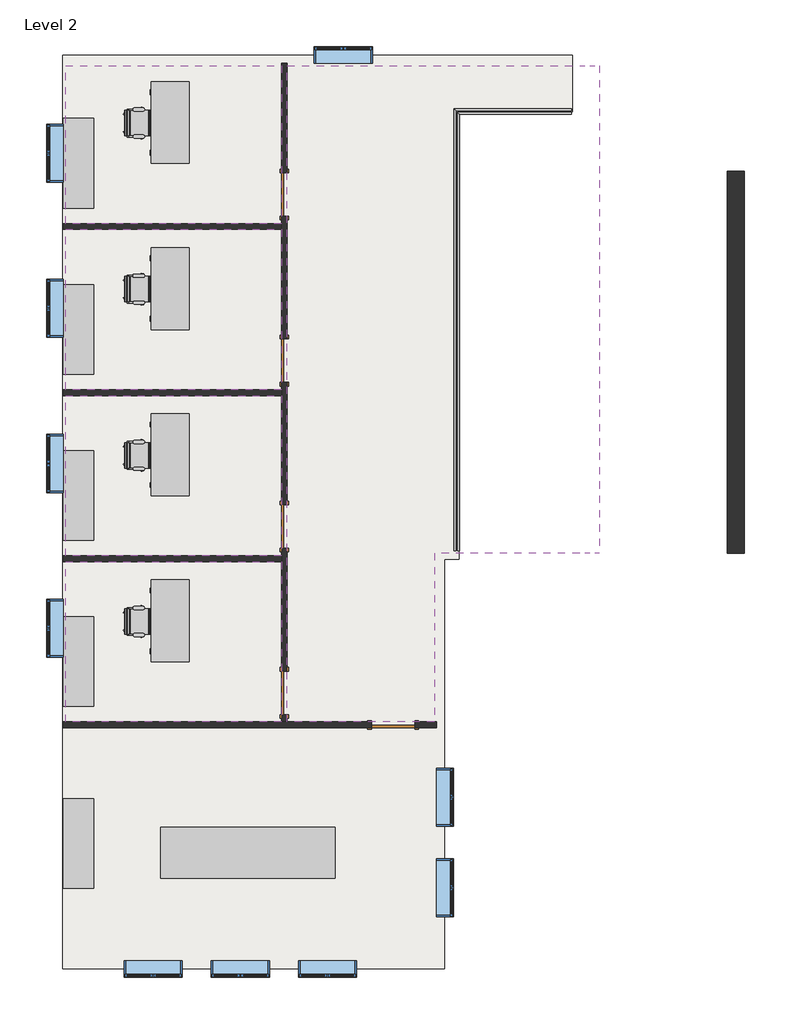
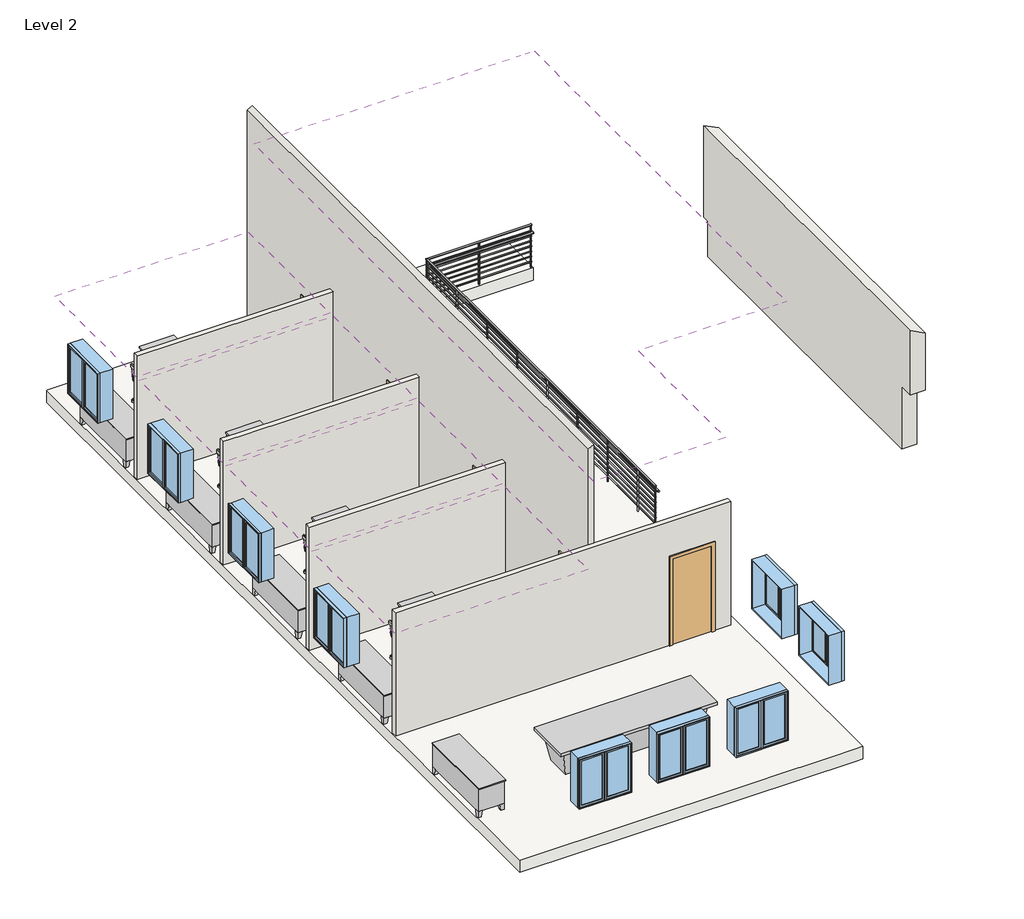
# One storey, incomplete: 14 furniture elements, 10 windows, 6 walls, 5 coverings, 5 doors, 1 railing, 1 slab.
"""IFC4 building model written with IfcOpenShell, lengths in millimetres."""

from ifc_helpers import new_model, si_unit, frame, origin, place, context, project, spatial, polyline, outline, extrude, faceted_brep, transform, mapped, element, save
from components import door_eb9f8b14, chair_task_arms_chair_task_arms_8395c10b, conference_table_complete_42_x_144_00e9c4b6, furniture_5a5a5c8e, furniture_9d33da18, guardrail_pipe_a9856383, window_75435c65

model = new_model("IFC4")

# Units and contexts
model_context = context("Model", 3, world=origin())
ifc_project = project(units=[si_unit("LENGTHUNIT", "METRE", prefix="MILLI")], contexts=[model_context])

# Site, building, storey
site = spatial("IfcSite", under=ifc_project)
building = spatial("IfcBuilding", under=site)
storey = spatial("IfcBuildingStorey", under=building, Name="Level 2", Elevation=3048.0)

# Coverings
placement = place(None, origin())
element("IfcCovering", 1, ObjectType="2' x 4' ACT System", at=placement, inside=storey, context=model_context, shape_type="SweptSolid", body=[
    extrude(outline(polyline([(-9011.7016552, 7211.1980424), (-13532.9016552, 7211.1980424), (-13532.9016552, 10517.9605424), (-9011.7016552, 10517.9605424), (-9011.7016552, 7211.1980424)])), frame((0.0, 0.0, 5486.4), z_axis=(0.0, 0.0, 1.0), x_axis=(1.0, 0.0, 0.0)), (0.0, 0.0, 1.0), 57.15),
])
element("IfcCovering", 2, ObjectType="2' x 4' ACT System", at=placement, inside=storey, context=model_context, shape_type="SweptSolid", body=[
    extrude(outline(polyline([(-9011.7016552, 3729.8105424), (-13532.9016552, 3729.8105424), (-13532.9016552, 7087.3730424), (-9011.7016552, 7087.3730424), (-9011.7016552, 3729.8105424)])), frame((0.0, 0.0, 5486.4), z_axis=(0.0, 0.0, 1.0), x_axis=(1.0, 0.0, 0.0)), (0.0, 0.0, 1.0), 57.15),
])
element("IfcCovering", 3, ObjectType="2' x 4' ACT System", at=placement, inside=storey, context=model_context, shape_type="SweptSolid", body=[
    extrude(outline(polyline([(-9011.7016552, 248.4230424), (-13532.9016552, 248.4230424), (-13532.9016552, 3605.9855424), (-9011.7016552, 3605.9855424), (-9011.7016552, 248.4230424)])), frame((0.0, 0.0, 5486.4), z_axis=(0.0, 0.0, 1.0), x_axis=(1.0, 0.0, 0.0)), (0.0, 0.0, 1.0), 57.15),
])
element("IfcCovering", 4, ObjectType="2' x 4' ACT System", at=placement, inside=storey, context=model_context, shape_type="SweptSolid", body=[
    extrude(outline(polyline([(-9011.7016552, -3232.9644576), (-13532.9016552, -3232.9644576), (-13532.9016552, 124.5980424), (-9011.7016552, 124.5980424), (-9011.7016552, -3232.9644576)])), frame((0.0, 0.0, 5486.4), z_axis=(0.0, 0.0, 1.0), x_axis=(1.0, 0.0, 0.0)), (0.0, 0.0, 1.0), 57.15),
])
element("IfcCovering", 5, ObjectType="5/8\" GWB on Mtl. Stud", at=placement, inside=storey, context=model_context, shape_type="Brep", body=[
    faceted_brep([(-2339.5447142, 10517.9605424, 7727.95), (-2756.9516552, 10517.9605424, 7727.95), (-8887.8766552, 10517.9605424, 7727.95), (-8887.8766552, -3232.9644576, 7727.95), (-5804.9516552, -3232.9644576, 7727.95), (-5804.9516552, 307.1605424, 7727.95), (-2756.9516552, 307.1605424, 7727.95), (-2339.5447142, 307.1605424, 7727.95), (-2339.5447142, 10517.9605424, 7620.0), (-2339.5447142, 307.1605424, 7620.0), (-2541.0516552, 307.1605424, 7620.0), (-5804.9516552, 307.1605424, 7620.0), (-5804.9516552, -3232.9644576, 7620.0), (-8887.8766552, -3232.9644576, 7620.0), (-8887.8766552, 10517.9605424, 7620.0), (-2541.0516552, 10517.9605424, 7620.0)], [[[0, 1, 2, 3, 4, 5, 6, 7]], [[8, 9, 10, 11, 12, 13, 14, 15]], [[2, 1, 0, 8, 15, 14]], [[3, 2, 14, 13]], [[4, 3, 13, 12]], [[5, 4, 12, 11]], [[7, 6, 5, 11, 10, 9]], [[0, 7, 9, 8]]]),
])

# Doors
door_shape = door_eb9f8b14(model_context)
element("IfcDoor", 6, ObjectType="Single-Flush : 36\" x 84\"", at=placement, inside=storey, context=model_context, shape_type="MappedRepresentation", body=[
    mapped(door_shape, transform((-6668.5516552, -3294.8769576, 3048.0), x_axis=(1.0, 0.0, 0.0), y_axis=(0.0, 1.0, 0.0), z_axis=(0.0, 0.0, 1.0))),
])
element("IfcDoor", 7, ObjectType="Single-Flush : 36\" x 84\"", at=placement, inside=storey, context=model_context, shape_type="MappedRepresentation", body=[
    mapped(door_shape, transform((-8949.7891552, -2623.3644576, 3048.0), x_axis=(0.0, -1.0, 0.0), y_axis=(1.0, 0.0, 0.0), z_axis=(0.0, 0.0, 1.0))),
])
element("IfcDoor", 8, ObjectType="Single-Flush : 36\" x 84\"", at=placement, inside=storey, context=model_context, shape_type="MappedRepresentation", body=[
    mapped(door_shape, transform((-8949.7891552, 862.7855424, 3048.0), x_axis=(0.0, -1.0, 0.0), y_axis=(1.0, 0.0, 0.0), z_axis=(0.0, 0.0, 1.0))),
])
element("IfcDoor", 9, ObjectType="Single-Flush : 36\" x 84\"", at=placement, inside=storey, context=model_context, shape_type="MappedRepresentation", body=[
    mapped(door_shape, transform((-8949.7891552, 4339.4105424, 3048.0), x_axis=(0.0, -1.0, 0.0), y_axis=(1.0, 0.0, 0.0), z_axis=(0.0, 0.0, 1.0))),
])
element("IfcDoor", 10, ObjectType="Single-Flush : 36\" x 84\"", at=placement, inside=storey, context=model_context, shape_type="MappedRepresentation", body=[
    mapped(door_shape, transform((-8949.7891552, 7820.7980424, 3048.0), x_axis=(0.0, -1.0, 0.0), y_axis=(1.0, 0.0, 0.0), z_axis=(0.0, 0.0, 1.0))),
])

# Furniture
chair_task_arms_chair_task_arms_shape = chair_task_arms_chair_task_arms_8395c10b(model_context)
element("IfcFurniture", 11, ObjectType="Chair-Task Arms : Chair-Task Arms", at=placement, inside=storey, context=model_context, shape_type="MappedRepresentation", body=[
    mapped(chair_task_arms_chair_task_arms_shape, transform((-12048.1356286, -1267.3427772, 3048.0), x_axis=(0.0, 1.0, 0.0), y_axis=(-1.0, 0.0, 0.0), z_axis=(0.0, 0.0, 1.0))),
])
element("IfcFurniture", 12, ObjectType="Chair-Task Arms : Chair-Task Arms", at=placement, inside=storey, context=model_context, shape_type="MappedRepresentation", body=[
    mapped(chair_task_arms_chair_task_arms_shape, transform((-12048.1356286, 2214.0447228, 3048.0), x_axis=(0.0, 1.0, 0.0), y_axis=(-1.0, 0.0, 0.0), z_axis=(0.0, 0.0, 1.0))),
])
element("IfcFurniture", 13, ObjectType="Chair-Task Arms : Chair-Task Arms", at=placement, inside=storey, context=model_context, shape_type="MappedRepresentation", body=[
    mapped(chair_task_arms_chair_task_arms_shape, transform((-12048.1356286, 5695.4322228, 3048.0), x_axis=(0.0, 1.0, 0.0), y_axis=(-1.0, 0.0, 0.0), z_axis=(0.0, 0.0, 1.0))),
])
element("IfcFurniture", 14, ObjectType="Chair-Task Arms : Chair-Task Arms", at=placement, inside=storey, context=model_context, shape_type="MappedRepresentation", body=[
    mapped(chair_task_arms_chair_task_arms_shape, transform((-12048.1356286, 9176.8197228, 3048.0), x_axis=(0.0, 1.0, 0.0), y_axis=(-1.0, 0.0, 0.0), z_axis=(0.0, 0.0, 1.0))),
])
conference_table_complete_42_x_144_shape = conference_table_complete_42_x_144_00e9c4b6(model_context)
element("IfcFurniture", 15, ObjectType="Conference Table-Complete : 42 x 144", at=placement, inside=storey, context=model_context, shape_type="MappedRepresentation", body=[
    mapped(conference_table_complete_42_x_144_shape, transform((-9715.5836955, -5969.8356111, 3048.0), x_axis=(1.0, 0.0, 0.0), y_axis=(0.0, 1.0, 0.0), z_axis=(0.0, 0.0, 1.0))),
])
furniture_shape = furniture_5a5a5c8e(model_context)
element("IfcFurniture", 16, ObjectType="Credenza : 72\" x 24\"", at=placement, inside=storey, context=model_context, shape_type="MappedRepresentation", body=[
    mapped(furniture_shape, transform((-13274.3213273, -1908.6485326, 3048.0), x_axis=(0.0, -1.0, 0.0), y_axis=(1.0, 0.0, 0.0), z_axis=(0.0, 0.0, 1.0))),
])
element("IfcFurniture", 17, ObjectType="Credenza : 72\" x 24\"", at=placement, inside=storey, context=model_context, shape_type="MappedRepresentation", body=[
    mapped(furniture_shape, transform((-13274.3213273, -5718.6485326, 3048.0), x_axis=(0.0, -1.0000000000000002, 0.0), y_axis=(1.0000000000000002, 0.0, 0.0), z_axis=(0.0, 0.0, 1.0))),
])
element("IfcFurniture", 18, ObjectType="Credenza : 72\" x 24\"", at=placement, inside=storey, context=model_context, shape_type="MappedRepresentation", body=[
    mapped(furniture_shape, transform((-13274.3213273, 1572.7389674, 3048.0), x_axis=(0.0, -1.0, 0.0), y_axis=(1.0, 0.0, 0.0), z_axis=(0.0, 0.0, 1.0))),
])
element("IfcFurniture", 19, ObjectType="Credenza : 72\" x 24\"", at=placement, inside=storey, context=model_context, shape_type="MappedRepresentation", body=[
    mapped(furniture_shape, transform((-13274.3213273, 5054.1264674, 3048.0), x_axis=(0.0, -1.0, 0.0), y_axis=(1.0, 0.0, 0.0), z_axis=(0.0, 0.0, 1.0))),
])
element("IfcFurniture", 20, ObjectType="Credenza : 72\" x 24\"", at=placement, inside=storey, context=model_context, shape_type="MappedRepresentation", body=[
    mapped(furniture_shape, transform((-13274.3213273, 8535.5139674, 3048.0), x_axis=(0.0, -1.0, 0.0), y_axis=(1.0, 0.0, 0.0), z_axis=(0.0, 0.0, 1.0))),
])
furniture_2_shape = furniture_9d33da18(model_context)
element("IfcFurniture", 21, ObjectType="Desk1 : 66\" x 30\"", at=placement, inside=storey, context=model_context, shape_type="MappedRepresentation", body=[
    mapped(furniture_2_shape, transform((-10962.389727, -275.4519576, 3048.0), x_axis=(0.0, -1.0, 0.0), y_axis=(1.0, 0.0, 0.0), z_axis=(0.0, 0.0, 1.0))),
])
element("IfcFurniture", 22, ObjectType="Desk1 : 66\" x 30\"", at=placement, inside=storey, context=model_context, shape_type="MappedRepresentation", body=[
    mapped(furniture_2_shape, transform((-10962.389727, 3205.9355424, 3048.0), x_axis=(0.0, -1.0, 0.0), y_axis=(1.0, 0.0, 0.0), z_axis=(0.0, 0.0, 1.0))),
])
element("IfcFurniture", 23, ObjectType="Desk1 : 66\" x 30\"", at=placement, inside=storey, context=model_context, shape_type="MappedRepresentation", body=[
    mapped(furniture_2_shape, transform((-10962.389727, 6687.3230424, 3048.0), x_axis=(0.0, -1.0, 0.0), y_axis=(1.0, 0.0, 0.0), z_axis=(0.0, 0.0, 1.0))),
])
element("IfcFurniture", 24, ObjectType="Desk1 : 66\" x 30\"", at=placement, inside=storey, context=model_context, shape_type="MappedRepresentation", body=[
    mapped(furniture_2_shape, transform((-10962.389727, 10168.7105424, 3048.0), x_axis=(0.0, -1.0, 0.0), y_axis=(1.0, 0.0, 0.0), z_axis=(0.0, 0.0, 1.0))),
])

# Railing
guardrail_pipe_shape = guardrail_pipe_a9856383(model_context)
element("IfcRailing", 25, ObjectType="Guardrail - Pipe", at=placement, inside=storey, context=model_context, shape_type="MappedRepresentation", body=[
    mapped(guardrail_pipe_shape, transform((0.0, 0.0, 0.0), x_axis=(1.0, 0.0, 0.0), y_axis=(0.0, 1.0, 0.0), z_axis=(0.0, 0.0, 1.0))),
])

# Slab
element("IfcSlab", 26, ObjectType="Generic - 12\"", at=placement, inside=storey, context=model_context, shape_type="Brep", body=[
    faceted_brep([(-13596.4016552, 10733.8605424, 2743.2), (-13583.7016552, 10733.8605424, 2743.2), (-5093.7516552, 10733.8605424, 2743.2), (-2909.3516552, 10733.8605424, 2743.2), (-2909.3516552, 9554.527236, 2743.2), (-5284.2516552, 9554.527236, 2743.2), (-5284.2516552, 175.3980424, 2743.2), (-5401.7266552, 175.3980424, 2743.2), (-5589.0516552, 175.3980424, 2743.2), (-5589.0516552, -8398.6894576, 2743.2), (-5754.1516552, -8398.6894576, 2743.2), (-13596.4016552, -8398.6894576, 2743.2), (-13596.4016552, -8233.5894576, 2743.2), (-13596.4016552, 10733.8605424, 3048.0), (-13596.4016552, -8233.5894576, 3048.0), (-13596.4016552, -8398.6894576, 3048.0), (-5754.1516552, -8398.6894576, 3048.0), (-5589.0516552, -8398.6894576, 3048.0), (-5589.0516552, 175.3980424, 3048.0), (-5401.7266552, 175.3980424, 3048.0), (-5284.2516552, 175.3980424, 3048.0), (-5284.2516552, 9554.527236, 3048.0), (-2909.3516552, 9554.527236, 3048.0), (-2909.3516552, 10733.8605424, 3048.0), (-5093.7516552, 10733.8605424, 3048.0), (-13583.7016552, 10733.8605424, 3048.0)], [[[0, 1, 2, 3, 4, 5, 6, 7, 8, 9, 10, 11, 12]], [[13, 14, 15, 16, 17, 18, 19, 20, 21, 22, 23, 24, 25]], [[3, 2, 1, 0, 13, 25, 24, 23]], [[4, 3, 23, 22]], [[5, 4, 22, 21]], [[6, 5, 21, 20]], [[8, 7, 6, 20, 19, 18]], [[9, 8, 18, 17]], [[11, 10, 9, 17, 16, 15]], [[0, 12, 11, 15, 14, 13]]]),
])

# Walls
element("IfcWall", 27, ObjectType="Exterior - Brick on Mtl. Stud", at=placement, inside=storey, context=model_context, shape_type="Brep", body=[
    faceted_brep([(341.8483448, 8130.3605424, 3048.0), (341.8483448, 2791.5980424, 3048.0), (341.8483448, 300.8105424, 3048.0), (341.8483448, 300.8105424, 3860.8), (341.8483448, 300.8105424, 4587.875), (341.8483448, -51.6144576, 4587.875), (341.8483448, -51.6144576, 6178.55), (341.8483448, 300.8105424, 6178.55), (341.8483448, 8306.5730424, 6178.55), (341.8483448, 8306.5730424, 3919.5375), (341.8483448, 8130.3605424, 3919.5375), (694.2733448, 8130.3605424, 3048.0), (694.2733448, 8130.3605424, 3919.5375), (694.2733448, 8306.5730424, 3919.5375), (694.2733448, 8306.5730424, 6002.3375), (694.2733448, -51.6144576, 6002.3375), (694.2733448, -51.6144576, 4587.875), (694.2733448, 300.8105424, 4587.875), (694.2733448, 300.8105424, 3048.0), (465.6733448, 8130.3605424, 3048.0), (541.8733448, 8130.3605424, 3048.0)], [[[0, 1, 2, 3, 4, 5, 6, 7, 8, 9, 10]], [[11, 12, 13, 14, 15, 16, 17, 18]], [[2, 1, 0, 19, 20, 11, 18]], [[8, 7, 6, 15, 14]], [[9, 8, 14, 13]], [[9, 13, 12, 10]], [[0, 10, 12, 11, 20, 19]], [[16, 5, 4, 17]], [[4, 3, 2, 18, 17]], [[6, 5, 16, 15]]]),
])
element("IfcWall", 28, ObjectType="Interior - 4 7/8\" Partition (1-hr)", at=placement, inside=storey, context=model_context, shape_type="Brep", body=[
    faceted_brep([(-8887.8766552, 4796.6105424, 3048.0), (-8887.8766552, 7363.5980424, 3048.0), (-8887.8766552, 7363.5980424, 5181.6), (-8887.8766552, 8277.9980424, 5181.6), (-8887.8766552, 8277.9980424, 3048.0), (-8887.8766552, 10568.7605424, 3048.0), (-8887.8766552, 10568.7605424, 8526.4625), (-8887.8766552, -3232.9644576, 8526.4625), (-8887.8766552, -3232.9644576, 3048.0), (-8887.8766552, -3080.5644576, 3048.0), (-8887.8766552, -3080.5644576, 5181.6), (-8887.8766552, -2166.1644576, 5181.6), (-8887.8766552, -2166.1644576, 3048.0), (-8887.8766552, 405.5855424, 3048.0), (-8887.8766552, 405.5855424, 5181.6), (-8887.8766552, 1319.9855424, 5181.6), (-8887.8766552, 1319.9855424, 3048.0), (-8887.8766552, 3882.2105424, 3048.0), (-8887.8766552, 3882.2105424, 5181.6), (-8887.8766552, 4796.6105424, 5181.6), (-9011.7016552, 7363.5980424, 5181.6), (-9011.7016552, 7363.5980424, 3048.0), (-9011.7016552, 7211.1980424, 3048.0), (-9011.7016552, 7087.3730424, 3048.0), (-9011.7016552, 4796.6105424, 3048.0), (-9011.7016552, 4796.6105424, 5181.6), (-9011.7016552, 3882.2105424, 5181.6), (-9011.7016552, 3882.2105424, 3048.0), (-9011.7016552, 3729.8105424, 3048.0), (-9011.7016552, 3605.9855424, 3048.0), (-9011.7016552, 1319.9855424, 3048.0), (-9011.7016552, 1319.9855424, 5181.6), (-9011.7016552, 405.5855424, 5181.6), (-9011.7016552, 405.5855424, 3048.0), (-9011.7016552, 248.4230424, 3048.0), (-9011.7016552, 124.5980424, 3048.0), (-9011.7016552, -2166.1644576, 3048.0), (-9011.7016552, -2166.1644576, 5181.6), (-9011.7016552, -3080.5644576, 5181.6), (-9011.7016552, -3080.5644576, 3048.0), (-9011.7016552, -3232.9644576, 3048.0), (-9011.7016552, -3232.9644576, 8464.55), (-9011.7016552, 10568.7605424, 8464.55), (-9011.7016552, 10568.7605424, 3048.0), (-9011.7016552, 8277.9980424, 3048.0), (-9011.7016552, 8277.9980424, 5181.6)], [[[0, 1, 2, 3, 4, 5, 6, 7, 8, 9, 10, 11, 12, 13, 14, 15, 16, 17, 18, 19]], [[20, 21, 22, 23, 24, 25, 26, 27, 28, 29, 30, 31, 32, 33, 34, 35, 36, 37, 38, 39, 40, 41, 42, 43, 44, 45]], [[40, 39, 9, 8]], [[36, 35, 34, 33, 13, 12]], [[30, 29, 28, 27, 17, 16]], [[44, 43, 5, 4]], [[24, 23, 22, 21, 1, 0]], [[8, 7, 41, 40]], [[10, 9, 39, 38]], [[11, 10, 38, 37]], [[12, 11, 37, 36]], [[14, 13, 33, 32]], [[15, 14, 32, 31]], [[16, 15, 31, 30]], [[18, 17, 27, 26]], [[19, 18, 26, 25]], [[0, 19, 25, 24]], [[2, 1, 21, 20]], [[3, 2, 20, 45]], [[4, 3, 45, 44]], [[7, 6, 42, 41]], [[6, 5, 43, 42]]]),
])
element("IfcWall", 29, ObjectType="Interior - 4 7/8\" Partition (1-hr)", at=placement, inside=storey, context=model_context, shape_type="Brep", body=[
    faceted_brep([(-6211.3516552, -3356.7894576, 5181.6), (-6211.3516552, -3356.7894576, 3048.0), (-5754.1516552, -3356.7894576, 3048.0), (-5754.1516552, -3356.7894576, 6096.0), (-13174.1266552, -3356.7894576, 6096.0), (-13583.7016552, -3356.7894576, 6096.0), (-13583.7016552, -3356.7894576, 3048.0), (-13174.1266552, -3356.7894576, 3048.0), (-7125.7516552, -3356.7894576, 3048.0), (-7125.7516552, -3356.7894576, 5181.6), (-5754.1516552, -3232.9644576, 3048.0), (-6211.3516552, -3232.9644576, 3048.0), (-6211.3516552, -3232.9644576, 5181.6), (-7125.7516552, -3232.9644576, 5181.6), (-7125.7516552, -3232.9644576, 3048.0), (-8887.8766552, -3232.9644576, 3048.0), (-9011.7016552, -3232.9644576, 3048.0), (-13174.1266552, -3232.9644576, 3048.0), (-13583.7016552, -3232.9644576, 3048.0), (-13583.7016552, -3232.9644576, 6096.0), (-13174.1266552, -3232.9644576, 6096.0), (-5754.1516552, -3232.9644576, 6096.0)], [[[0, 1, 2, 3, 4, 5, 6, 7, 8, 9]], [[10, 11, 12, 13, 14, 15, 16, 17, 18, 19, 20, 21]], [[2, 1, 11, 10]], [[8, 7, 6, 18, 17, 16, 15, 14]], [[5, 4, 3, 21, 20, 19]], [[12, 11, 1, 0]], [[13, 12, 0, 9]], [[14, 13, 9, 8]], [[3, 2, 10, 21]], [[6, 5, 19, 18]]]),
])
element("IfcWall", 30, ObjectType="Interior - 4 7/8\" Partition (1-hr)", at=placement, inside=storey, context=model_context, shape_type="SweptSolid", body=[
    extrude(outline(polyline([(-9011.7016552, 124.5980424), (-13583.7016552, 124.5980424), (-13583.7016552, 248.4230424), (-9011.7016552, 248.4230424), (-9011.7016552, 124.5980424)])), frame((0.0, 0.0, 3048.0), z_axis=(0.0, 0.0, 1.0), x_axis=(1.0, 0.0, 0.0)), (0.0, 0.0, 1.0), 3048.0),
])
element("IfcWall", 31, ObjectType="Interior - 4 7/8\" Partition (1-hr)", at=placement, inside=storey, context=model_context, shape_type="Brep", body=[
    faceted_brep([(-13583.7016552, 3605.9855424, 3048.0), (-13174.1266552, 3605.9855424, 3048.0), (-9011.7016552, 3605.9855424, 3048.0), (-9011.7016552, 3605.9855424, 6096.0), (-13174.1266552, 3605.9855424, 6096.0), (-13583.7016552, 3605.9855424, 6096.0), (-13583.7016552, 3729.8105424, 3048.0), (-13583.7016552, 3729.8105424, 6096.0), (-13174.1266552, 3729.8105424, 6096.0), (-9011.7016552, 3729.8105424, 6096.0), (-9011.7016552, 3729.8105424, 3048.0), (-13174.1266552, 3729.8105424, 3048.0)], [[[0, 1, 2, 3, 4, 5]], [[6, 7, 8, 9, 10, 11]], [[2, 1, 0, 6, 11, 10]], [[5, 4, 3, 9, 8, 7]], [[3, 2, 10, 9]], [[0, 5, 7, 6]]]),
])
element("IfcWall", 32, ObjectType="Interior - 4 7/8\" Partition (1-hr)", at=placement, inside=storey, context=model_context, shape_type="SweptSolid", body=[
    extrude(outline(polyline([(-9011.7016552, 7087.3730424), (-13583.7016552, 7087.3730424), (-13583.7016552, 7211.1980424), (-9011.7016552, 7211.1980424), (-9011.7016552, 7087.3730424)])), frame((0.0, 0.0, 3048.0), z_axis=(0.0, 0.0, 1.0), x_axis=(1.0, 0.0, 0.0)), (0.0, 0.0, 1.0), 3048.0),
])

# Windows
window_shape = window_75435c65(model_context)
element("IfcWindow", 33, ObjectType="Casement Double : 48\" x 48\"", at=placement, inside=storey, context=model_context, shape_type="MappedRepresentation", body=[
    mapped(window_shape, transform((-13740.8641552, -1270.8144576, 3048.0), x_axis=(0.0, 1.0, 0.0), y_axis=(-1.0, 0.0, 0.0), z_axis=(0.0, 0.0, 1.0))),
])
element("IfcWindow", 34, ObjectType="Casement Double : 48\" x 48\"", at=placement, inside=storey, context=model_context, shape_type="MappedRepresentation", body=[
    mapped(window_shape, transform((-13740.8641552, 2183.5855424, 3048.0), x_axis=(0.0, 1.0, 0.0), y_axis=(-1.0, 0.0, 0.0), z_axis=(0.0, 0.0, 1.0))),
])
element("IfcWindow", 35, ObjectType="Casement Double : 48\" x 48\"", at=placement, inside=storey, context=model_context, shape_type="MappedRepresentation", body=[
    mapped(window_shape, transform((-13740.8641552, 5434.7855424, 3048.0), x_axis=(0.0, 1.0, 0.0), y_axis=(-1.0, 0.0, 0.0), z_axis=(0.0, 0.0, 1.0))),
])
element("IfcWindow", 36, ObjectType="Casement Double : 48\" x 48\"", at=placement, inside=storey, context=model_context, shape_type="MappedRepresentation", body=[
    mapped(window_shape, transform((-13740.8641552, 8685.9855424, 3048.0), x_axis=(0.0, 1.0, 0.0), y_axis=(-1.0, 0.0, 0.0), z_axis=(0.0, 0.0, 1.0))),
])
element("IfcWindow", 37, ObjectType="Casement Double : 48\" x 48\"", at=placement, inside=storey, context=model_context, shape_type="MappedRepresentation", body=[
    mapped(window_shape, transform((-11700.9266552, -8390.7519576, 3048.0), x_axis=(-1.0, 0.0, 0.0), y_axis=(0.0, -1.0, 0.0), z_axis=(0.0, 0.0, 1.0))),
])
element("IfcWindow", 38, ObjectType="Casement Double : 48\" x 48\"", at=placement, inside=storey, context=model_context, shape_type="MappedRepresentation", body=[
    mapped(window_shape, transform((-9872.1266552, -8390.7519576, 3048.0), x_axis=(-1.0, 0.0, 0.0), y_axis=(0.0, -1.0, 0.0), z_axis=(0.0, 0.0, 1.0))),
])
element("IfcWindow", 39, ObjectType="Casement Double : 48\" x 48\"", at=placement, inside=storey, context=model_context, shape_type="MappedRepresentation", body=[
    mapped(window_shape, transform((-8043.3266552, -8390.7519576, 3048.0), x_axis=(-1.0, 0.0, 0.0), y_axis=(0.0, -1.0, 0.0), z_axis=(0.0, 0.0, 1.0))),
])
element("IfcWindow", 40, ObjectType="Casement Double : 48\" x 48\"", at=placement, inside=storey, context=model_context, shape_type="MappedRepresentation", body=[
    mapped(window_shape, transform((-5596.9891552, -6709.5894576, 3048.0), x_axis=(0.0, -1.0, 0.0), y_axis=(1.0, 0.0, 0.0), z_axis=(0.0, 0.0, 1.0))),
])
element("IfcWindow", 41, ObjectType="Casement Double : 48\" x 48\"", at=placement, inside=storey, context=model_context, shape_type="MappedRepresentation", body=[
    mapped(window_shape, transform((-5596.9891552, -4810.9394576, 3048.0), x_axis=(0.0, -1.0, 0.0), y_axis=(1.0, 0.0, 0.0), z_axis=(0.0, 0.0, 1.0))),
])
element("IfcWindow", 42, ObjectType="Casement Double : 48\" x 48\"", at=placement, inside=storey, context=model_context, shape_type="MappedRepresentation", body=[
    mapped(window_shape, transform((-7713.1266552, 10725.9230424, 3048.0), x_axis=(1.0, 0.0, 0.0), y_axis=(0.0, 1.0, 0.0), z_axis=(0.0, 0.0, 1.0))),
])

save(model, "model.ifc")
